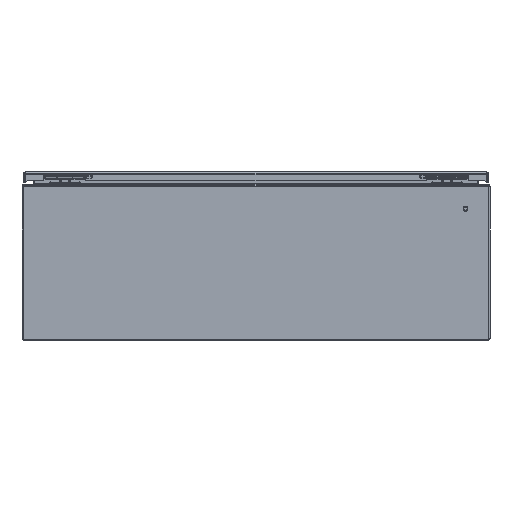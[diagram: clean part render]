
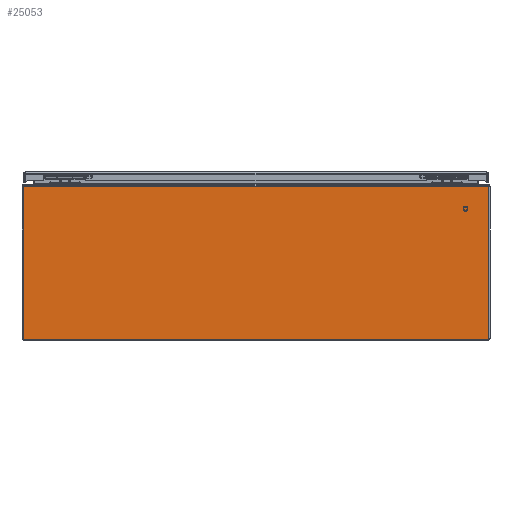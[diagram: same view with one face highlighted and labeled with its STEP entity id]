
A CAD part, left-side view. The second image highlights one B-rep face of the part: STEP entity #25053.
In plain terms, the highlighted planar face has unit normal (-1, 0, 0) as drawn and (0, -1, 0) by its records, which use the part's own axes.
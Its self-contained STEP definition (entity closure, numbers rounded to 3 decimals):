
#8778 = AXIS2_PLACEMENT_3D ( 'NONE', #53303, #53308, #53309 ) ;
#24119 = FACE_OUTER_BOUND ( 'NONE', #38647, .T. ) ;
#25053 = ADVANCED_FACE ( 'NONE', ( #24119 ), #53305, .T. ) ;
#36817 = EDGE_CURVE ( 'NONE', #39523, #39524, #58981, .T. ) ;
#36819 = EDGE_CURVE ( 'NONE', #39523, #39525, #58987, .T. ) ;
#36820 = EDGE_CURVE ( 'NONE', #39525, #39526, #58975, .T. ) ;
#36821 = EDGE_CURVE ( 'NONE', #39524, #39526, #58973, .T. ) ;
#38647 = EDGE_LOOP ( 'NONE', ( #41717, #41719, #41721, #41724 ) ) ;
#39523 = VERTEX_POINT ( 'NONE', #78468 ) ;
#39524 = VERTEX_POINT ( 'NONE', #78470 ) ;
#39525 = VERTEX_POINT ( 'NONE', #78472 ) ;
#39526 = VERTEX_POINT ( 'NONE', #78474 ) ;
#41717 = ORIENTED_EDGE ( 'NONE', *, *, #36820, .F. ) ;
#41719 = ORIENTED_EDGE ( 'NONE', *, *, #36819, .F. ) ;
#41721 = ORIENTED_EDGE ( 'NONE', *, *, #36817, .T. ) ;
#41724 = ORIENTED_EDGE ( 'NONE', *, *, #36821, .T. ) ;
#53303 = CARTESIAN_POINT ( 'NONE',  ( 15., 0., 0.08 ) ) ;
#53305 = PLANE ( 'NONE',  #8778 ) ;
#53308 = DIRECTION ( 'NONE',  ( 0., -1., 0. ) ) ;
#53309 = DIRECTION ( 'NONE',  ( 0., 0., -1. ) ) ;
#58971 = VECTOR ( 'NONE', #68403, 39.37 ) ;
#58973 = LINE ( 'NONE', #68409, #59000 ) ;
#58975 = LINE ( 'NONE', #68390, #58995 ) ;
#58981 = LINE ( 'NONE', #68398, #58971 ) ;
#58985 = VECTOR ( 'NONE', #68408, 39.37 ) ;
#58987 = LINE ( 'NONE', #68404, #58985 ) ;
#58995 = VECTOR ( 'NONE', #68410, 39.37 ) ;
#59000 = VECTOR ( 'NONE', #68412, 39.37 ) ;
#68390 = CARTESIAN_POINT ( 'NONE',  ( 15., 0., 0.08 ) ) ;
#68398 = CARTESIAN_POINT ( 'NONE',  ( 15., 0., 9.838 ) ) ;
#68403 = DIRECTION ( 'NONE',  ( -1., 0., 0. ) ) ;
#68404 = CARTESIAN_POINT ( 'NONE',  ( 14.925, 0., 0.08 ) ) ;
#68408 = DIRECTION ( 'NONE',  ( 0., 0., -1. ) ) ;
#68409 = CARTESIAN_POINT ( 'NONE',  ( -14.925, 0., 10.569 ) ) ;
#68410 = DIRECTION ( 'NONE',  ( -1., 0., 0. ) ) ;
#68412 = DIRECTION ( 'NONE',  ( 0., 0., -1. ) ) ;
#78468 = CARTESIAN_POINT ( 'NONE',  ( 14.925, 0., 9.838 ) ) ;
#78470 = CARTESIAN_POINT ( 'NONE',  ( -14.925, 0., 9.838 ) ) ;
#78472 = CARTESIAN_POINT ( 'NONE',  ( 14.925, 0., 0.08 ) ) ;
#78474 = CARTESIAN_POINT ( 'NONE',  ( -14.925, 0., 0.08 ) ) ;
